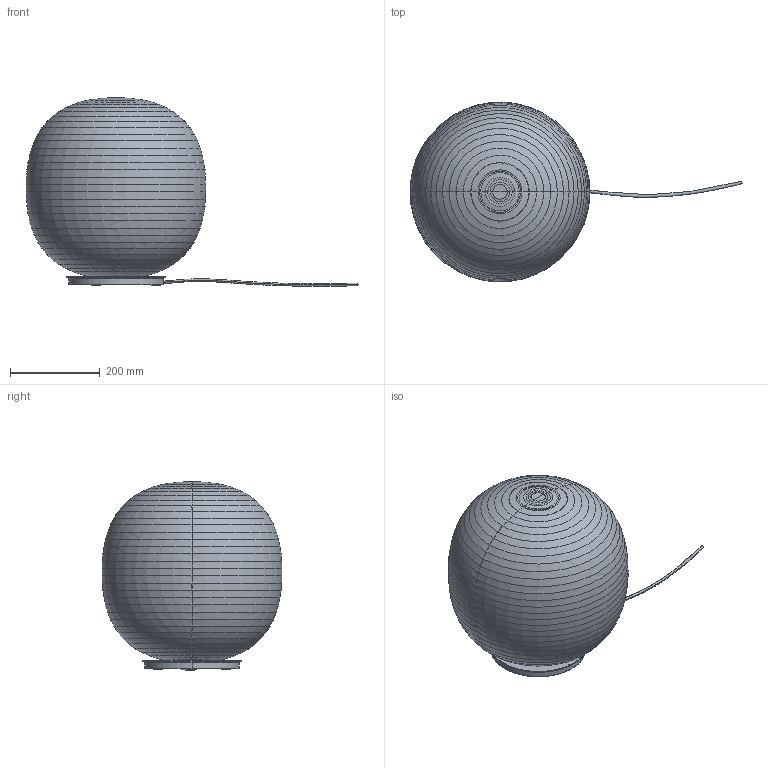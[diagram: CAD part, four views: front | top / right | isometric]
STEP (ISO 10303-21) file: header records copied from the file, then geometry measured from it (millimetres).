
FILE_DESCRIPTION(/* description */ (''),/* implementation_level */ '2;1');
FILE_NAME(/* name */ 'Lantern Globe Floor Large, Large ',/* time_stamp */ '2020-08-28T23:35:14+02:00',/* author */ (''),/* organization */ (''),/* preprocessor_version */ 'ST-DEVELOPER v15',/* originating_system */ '',/* authorisation */ '');
FILE_SCHEMA (('AUTOMOTIVE_DESIGN'));
Length unit declared in the file: millimetre
Products named in the file (17): Document; LARGE_ASM; BASE_AF0; D_LS_AF0; E27_AF0; TOP_YAGUAN_AF0; 5_12_3_AF0; 5_13_3_AF0; PRT0001_AF1; PRT0001_AF0; PRT0001; WIRE_AF0; COVER_AF0_ASM; DA_DENLON_AF0; D_LM1_AF0; L_C_AF0; M4X12_AF0
Assembly tree (16 placements, depth 4):
  Document
    LARGE_ASM
      BASE_AF0
      D_LS_AF0
      E27_AF0
      TOP_YAGUAN_AF0
      5_12_3_AF0
      5_13_3_AF0
      PRT0001_AF1
      PRT0001_AF0
      PRT0001
      WIRE_AF0
      COVER_AF0_ASM
        DA_DENLON_AF0
        D_LM1_AF0
        L_C_AF0
        M4X12_AF0
Bounding box: 738.05 x 399.77 x 419.33 mm (x, y, z)
Volume: 1768192.5 mm3; surface area: 1209567.6 mm2
Topology: 14 solids, 14 shells, 425 faces, 1008 edges, 613 vertices
Faces by surface type: bspline 382, plane 43
Entity records: 36435 total; most frequent: CARTESIAN_POINT 30069, ORIENTED_EDGE 2004, EDGE_CURVE 1002, B_SPLINE_CURVE_WITH_KNOTS 680, VERTEX_POINT 613, EDGE_LOOP 459, ADVANCED_FACE 425, FACE_OUTER_BOUND 425
